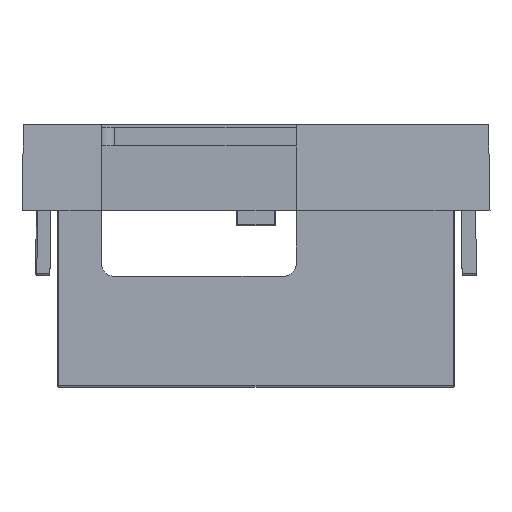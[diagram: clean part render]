
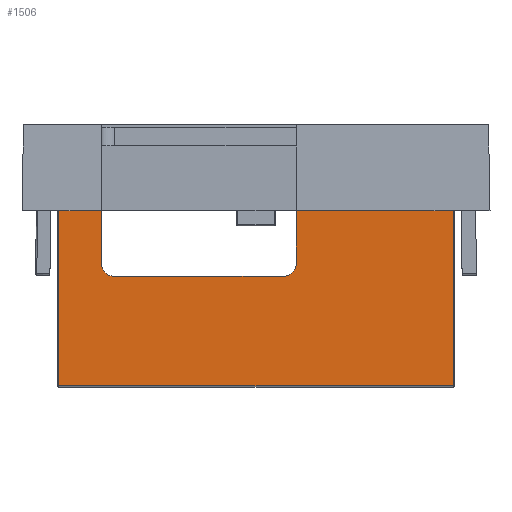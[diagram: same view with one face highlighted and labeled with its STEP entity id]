
A CAD part, front view. The second image highlights one B-rep face of the part: STEP entity #1506.
In plain terms, the highlighted planar face has unit normal (0, -1, 0).
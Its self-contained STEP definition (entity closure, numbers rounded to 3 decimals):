
#17=ELLIPSE('',#1631,1.,1.);
#18=ELLIPSE('',#1632,1.,1.);
#42=PLANE('',#1630);
#108=FACE_OUTER_BOUND('',#198,.T.);
#198=EDGE_LOOP('',(#1103,#1104,#1105,#1106,#1107,#1108,#1109,#1110,#1111,
#1112));
#321=LINE('',#2342,#487);
#322=LINE('',#2345,#488);
#329=LINE('',#2358,#495);
#330=LINE('',#2362,#496);
#331=LINE('',#2365,#497);
#332=LINE('',#2367,#498);
#333=LINE('',#2369,#499);
#334=LINE('',#2370,#500);
#487=VECTOR('',#1850,11.888);
#488=VECTOR('',#1853,3.212);
#495=VECTOR('',#1862,3.998);
#496=VECTOR('',#1865,12.8);
#497=VECTOR('',#1868,3.998);
#498=VECTOR('',#1869,13.3);
#499=VECTOR('',#1870,29.9);
#500=VECTOR('',#1871,13.3);
#677=VERTEX_POINT('',#2294);
#690=VERTEX_POINT('',#2328);
#695=VERTEX_POINT('',#2340);
#696=VERTEX_POINT('',#2344);
#701=VERTEX_POINT('',#2356);
#702=VERTEX_POINT('',#2360);
#703=VERTEX_POINT('',#2361);
#704=VERTEX_POINT('',#2363);
#705=VERTEX_POINT('',#2366);
#706=VERTEX_POINT('',#2368);
#843=EDGE_CURVE('',#690,#695,#321,.T.);
#844=EDGE_CURVE('',#696,#677,#322,.T.);
#851=EDGE_CURVE('',#695,#701,#329,.T.);
#852=EDGE_CURVE('',#702,#703,#330,.T.);
#853=EDGE_CURVE('',#702,#704,#17,.T.);
#854=EDGE_CURVE('',#696,#704,#331,.T.);
#855=EDGE_CURVE('',#705,#677,#332,.T.);
#856=EDGE_CURVE('',#706,#705,#333,.T.);
#857=EDGE_CURVE('',#690,#706,#334,.T.);
#858=EDGE_CURVE('',#701,#703,#18,.T.);
#1103=ORIENTED_EDGE('',*,*,#852,.F.);
#1104=ORIENTED_EDGE('',*,*,#853,.T.);
#1105=ORIENTED_EDGE('',*,*,#854,.F.);
#1106=ORIENTED_EDGE('',*,*,#844,.T.);
#1107=ORIENTED_EDGE('',*,*,#855,.F.);
#1108=ORIENTED_EDGE('',*,*,#856,.F.);
#1109=ORIENTED_EDGE('',*,*,#857,.F.);
#1110=ORIENTED_EDGE('',*,*,#843,.T.);
#1111=ORIENTED_EDGE('',*,*,#851,.T.);
#1112=ORIENTED_EDGE('',*,*,#858,.T.);
#1506=ADVANCED_FACE('',(#108),#42,.T.);
#1630=AXIS2_PLACEMENT_3D('',#2359,#1863,#1864);
#1631=AXIS2_PLACEMENT_3D('',#2364,#1866,#1867);
#1632=AXIS2_PLACEMENT_3D('',#2371,#1872,#1873);
#1850=DIRECTION('',(-1.,0.,0.));
#1853=DIRECTION('',(-1.,0.,0.));
#1862=DIRECTION('',(0.,0.,-1.));
#1863=DIRECTION('center_axis',(0.,-1.,0.));
#1864=DIRECTION('ref_axis',(0.,0.,-1.));
#1865=DIRECTION('',(1.,0.,0.));
#1866=DIRECTION('center_axis',(0.,1.,0.));
#1867=DIRECTION('ref_axis',(0.,0.,-1.));
#1868=DIRECTION('',(0.,0.,-1.));
#1869=DIRECTION('',(0.,0.,1.));
#1870=DIRECTION('',(-1.,0.,0.));
#1871=DIRECTION('',(0.,0.,-1.));
#1872=DIRECTION('center_axis',(0.,1.,0.));
#1873=DIRECTION('ref_axis',(0.,0.,-1.));
#2294=CARTESIAN_POINT('',(2.8,0.,0.));
#2328=CARTESIAN_POINT('',(32.7,0.,0.));
#2340=CARTESIAN_POINT('',(20.812,0.,0.));
#2342=CARTESIAN_POINT('',(32.7,0.,0.));
#2344=CARTESIAN_POINT('',(6.012,0.,0.));
#2345=CARTESIAN_POINT('',(6.012,0.,0.));
#2356=CARTESIAN_POINT('',(20.812,0.,-3.998));
#2358=CARTESIAN_POINT('',(20.812,0.,0.));
#2359=CARTESIAN_POINT('Origin',(2.65,0.,0.));
#2360=CARTESIAN_POINT('',(7.012,0.,-4.998));
#2361=CARTESIAN_POINT('',(19.812,0.,-4.998));
#2362=CARTESIAN_POINT('',(7.012,0.,-4.998));
#2363=CARTESIAN_POINT('',(6.012,0.,-3.998));
#2364=CARTESIAN_POINT('Origin',(7.012,0.,-3.998));
#2365=CARTESIAN_POINT('',(6.012,0.,0.));
#2366=CARTESIAN_POINT('',(2.8,0.,-13.3));
#2367=CARTESIAN_POINT('',(2.8,0.,-13.3));
#2368=CARTESIAN_POINT('',(32.7,0.,-13.3));
#2369=CARTESIAN_POINT('',(32.7,0.,-13.3));
#2370=CARTESIAN_POINT('',(32.7,0.,0.));
#2371=CARTESIAN_POINT('Origin',(19.812,0.,-3.998));
